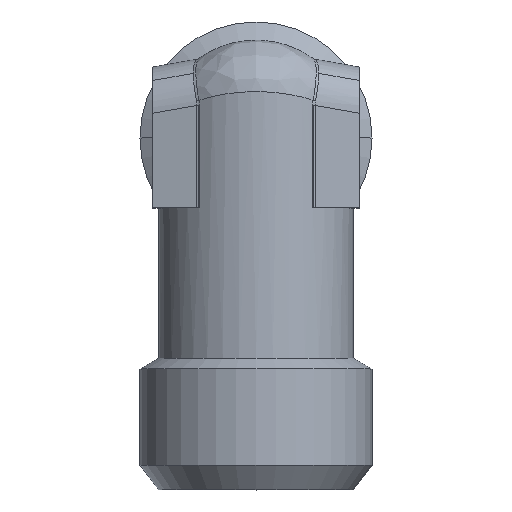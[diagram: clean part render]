
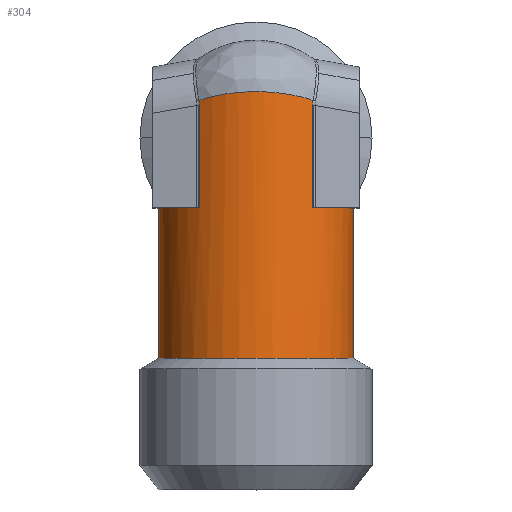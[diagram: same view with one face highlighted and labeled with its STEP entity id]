
A CAD part, top view. The second image highlights one B-rep face of the part: STEP entity #304.
In plain terms, the highlighted cylindrical face has radius 4.15 mm (diameter 8.3 mm), a partial arc.
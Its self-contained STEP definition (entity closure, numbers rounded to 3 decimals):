
#193=CARTESIAN_POINT('',(0.0,0.0,0.0));
#194=DIRECTION('',(0.0,1.0,0.0));
#195=DIRECTION('',(-1.0,0.0,0.0));
#196=AXIS2_PLACEMENT_3D('',#193,#194,#195);
#197=CYLINDRICAL_SURFACE('',#196,4.15);
#198=CARTESIAN_POINT('',(-4.15,-9.4,0.));
#199=VERTEX_POINT('',#198);
#200=CARTESIAN_POINT('',(-4.15,-3.0,0.));
#201=VERTEX_POINT('',#200);
#202=CARTESIAN_POINT('',(-4.15,-9.4,0.));
#203=DIRECTION('',(0.0,1.0,0.0));
#204=VECTOR('',#203,6.4);
#205=LINE('',#202,#204);
#206=EDGE_CURVE('',#199,#201,#205,.T.);
#207=ORIENTED_EDGE('',*,*,#206,.F.);
#208=CARTESIAN_POINT('',(4.15,-9.4,0.));
#209=VERTEX_POINT('',#208);
#210=CARTESIAN_POINT('',(0.0,-9.4,0.));
#211=DIRECTION('',(0.0,1.0,0.0));
#212=DIRECTION('',(1.0,0.0,0.0));
#213=AXIS2_PLACEMENT_3D('',#210,#211,#212);
#214=CIRCLE('',#213,4.15);
#215=EDGE_CURVE('',#199,#209,#214,.T.);
#216=ORIENTED_EDGE('',*,*,#215,.T.);
#217=CARTESIAN_POINT('',(4.15,-3.0,0.));
#218=VERTEX_POINT('',#217);
#219=CARTESIAN_POINT('',(4.15,-3.0,0.));
#220=DIRECTION('',(0.0,-1.0,0.0));
#221=VECTOR('',#220,6.4);
#222=LINE('',#219,#221);
#223=EDGE_CURVE('',#218,#209,#222,.T.);
#224=ORIENTED_EDGE('',*,*,#223,.F.);
#225=CARTESIAN_POINT('',(2.415,-3.0,3.375));
#226=VERTEX_POINT('',#225);
#227=CARTESIAN_POINT('',(0.0,-3.0,0.0));
#228=DIRECTION('',(0.0,-1.0,0.0));
#229=DIRECTION('',(-1.0,0.0,0.0));
#230=AXIS2_PLACEMENT_3D('',#227,#228,#229);
#231=CIRCLE('',#230,4.15);
#232=EDGE_CURVE('',#218,#226,#231,.T.);
#233=ORIENTED_EDGE('',*,*,#232,.T.);
#234=CARTESIAN_POINT('',(2.415,1.362,3.375));
#235=VERTEX_POINT('',#234);
#236=CARTESIAN_POINT('',(2.415,1.362,3.375));
#237=DIRECTION('',(0.0,-1.0,0.0));
#238=VECTOR('',#237,4.362);
#239=LINE('',#236,#238);
#240=EDGE_CURVE('',#235,#226,#239,.T.);
#241=ORIENTED_EDGE('',*,*,#240,.F.);
#242=CARTESIAN_POINT('',(2.434,1.58,3.362));
#243=VERTEX_POINT('',#242);
#244=CARTESIAN_POINT('',(2.434,1.58,3.362));
#245=CARTESIAN_POINT('',(2.429,1.554,3.365));
#246=CARTESIAN_POINT('',(2.426,1.529,3.367));
#247=CARTESIAN_POINT('',(2.42,1.48,3.371));
#248=CARTESIAN_POINT('',(2.418,1.457,3.373));
#249=CARTESIAN_POINT('',(2.416,1.419,3.374));
#250=CARTESIAN_POINT('',(2.416,1.404,3.374));
#251=CARTESIAN_POINT('',(2.415,1.381,3.375));
#252=CARTESIAN_POINT('',(2.415,1.371,3.375));
#253=CARTESIAN_POINT('',(2.415,1.362,3.375));
#254=B_SPLINE_CURVE_WITH_KNOTS('',3,(#244,#245,#246,#247,#248,#249,#250,#251,#252,#253),.UNSPECIFIED.,.F.,.U.,(4,2,2,2,4),(0.0,0.078,0.147,0.191,0.218),.UNSPECIFIED.);
#255=EDGE_CURVE('',#243,#235,#254,.T.);
#256=ORIENTED_EDGE('',*,*,#255,.F.);
#257=CARTESIAN_POINT('',(-2.434,1.58,3.362));
#258=VERTEX_POINT('',#257);
#259=CARTESIAN_POINT('',(0.0,0.0,0.0));
#260=DIRECTION('',(0.0,0.905,-0.425));
#261=DIRECTION('',(0.0,0.425,0.905));
#262=AXIS2_PLACEMENT_3D('',#259,#260,#261);
#263=ELLIPSE('',#262,4.585,4.15);
#264=EDGE_CURVE('',#258,#243,#263,.T.);
#265=ORIENTED_EDGE('',*,*,#264,.F.);
#266=CARTESIAN_POINT('',(-2.415,1.362,3.375));
#267=VERTEX_POINT('',#266);
#268=CARTESIAN_POINT('',(-2.434,1.58,3.362));
#269=CARTESIAN_POINT('',(-2.432,1.567,3.363));
#270=CARTESIAN_POINT('',(-2.43,1.555,3.364));
#271=CARTESIAN_POINT('',(-2.426,1.528,3.367));
#272=CARTESIAN_POINT('',(-2.424,1.513,3.369));
#273=CARTESIAN_POINT('',(-2.421,1.49,3.37));
#274=CARTESIAN_POINT('',(-2.421,1.481,3.371));
#275=CARTESIAN_POINT('',(-2.419,1.467,3.372));
#276=CARTESIAN_POINT('',(-2.419,1.463,3.372));
#277=CARTESIAN_POINT('',(-2.418,1.451,3.373));
#278=CARTESIAN_POINT('',(-2.418,1.443,3.373));
#279=CARTESIAN_POINT('',(-2.417,1.425,3.374));
#280=CARTESIAN_POINT('',(-2.416,1.413,3.374));
#281=CARTESIAN_POINT('',(-2.415,1.388,3.375));
#282=CARTESIAN_POINT('',(-2.415,1.375,3.375));
#283=CARTESIAN_POINT('',(-2.415,1.362,3.375));
#284=B_SPLINE_CURVE_WITH_KNOTS('',3,(#268,#269,#270,#271,#272,#273,#274,#275,#276,#277,#278,#279,#280,#281,#282,#283),.UNSPECIFIED.,.F.,.U.,(4,2,2,2,2,2,2,4),(0.0,0.038,0.082,0.109,0.123,0.145,0.18,0.219),.UNSPECIFIED.);
#285=EDGE_CURVE('',#267,#258,#284,.F.);
#286=ORIENTED_EDGE('',*,*,#285,.F.);
#287=CARTESIAN_POINT('',(-2.415,-3.0,3.375));
#288=VERTEX_POINT('',#287);
#289=CARTESIAN_POINT('',(-2.415,-3.0,3.375));
#290=DIRECTION('',(0.0,1.0,0.0));
#291=VECTOR('',#290,4.362);
#292=LINE('',#289,#291);
#293=EDGE_CURVE('',#288,#267,#292,.T.);
#294=ORIENTED_EDGE('',*,*,#293,.F.);
#295=CARTESIAN_POINT('',(0.0,-3.0,0.0));
#296=DIRECTION('',(0.0,-1.0,0.0));
#297=DIRECTION('',(-1.0,0.0,0.0));
#298=AXIS2_PLACEMENT_3D('',#295,#296,#297);
#299=CIRCLE('',#298,4.15);
#300=EDGE_CURVE('',#288,#201,#299,.T.);
#301=ORIENTED_EDGE('',*,*,#300,.T.);
#302=EDGE_LOOP('',(#207,#216,#224,#233,#241,#256,#265,#286,#294,#301));
#303=FACE_OUTER_BOUND('',#302,.T.);
#304=ADVANCED_FACE('',(#303),#197,.T.);
